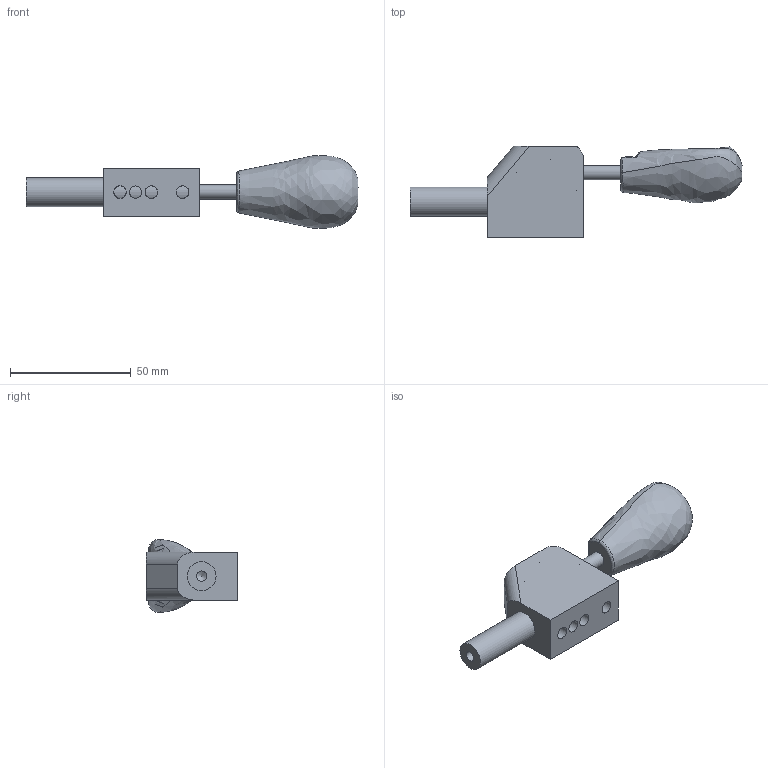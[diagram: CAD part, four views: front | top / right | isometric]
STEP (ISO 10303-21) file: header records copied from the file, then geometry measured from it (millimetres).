
FILE_DESCRIPTION(/* description */ (''),/* implementation_level */ '2;1');
FILE_NAME(/* name */ '\\192.168.1.150\pc03\Inventor\デュアルメカニズムクランプ最終\2017.10月　最新型\YSP-22ST\YSP-22ST-clamp.stp',/* time_stamp */ '2024-05-14T16:11:02+09:00',/* author */ ('Backup'),/* organization */ (''),/* preprocessor_version */ 'ST-DEVELOPER v17',/* originating_system */ 'Autodesk Inventor 2019',/* authorisation */ '');
FILE_SCHEMA (('AUTOMOTIVE_DESIGN { 1 0 10303 214 3 1 1 }'));
Length unit declared in the file: millimetre
Products named in the file (6): Assembly10; ボディ 改修後; 50-30_VER4_PG2__12; Φ8×40ｼｬﾌﾄ; カムφ25; YO－M３５S スライドバー
Assembly tree (5 placements, depth 2):
  Assembly10
    ボディ 改修後
    50-30_VER4_PG2__12
    Φ8×40ｼｬﾌﾄ
    カムφ25
    YO－M３５S スライドバー
Bounding box: 137.75 x 38 x 30.17 mm (x, y, z)
Volume: 47731.8 mm3; surface area: 19195.4 mm2
Topology: 5 solids, 5 shells, 191 faces, 532 edges, 356 vertices
Faces by surface type: plane 91, cylinder 69, bspline 24, sphere 4, cone 3
Full cylindrical faces by diameter (mm): 0.01 x12, 1.306 x1, 3.2 x2, 4.3 x1, 5.1 x1, 5.2 x3, 6 x3, 12 x2
Entity records: 16572 total; most frequent: CARTESIAN_POINT 11467, ORIENTED_EDGE 1056, DIRECTION 973, EDGE_CURVE 528, VERTEX_POINT 356, AXIS2_PLACEMENT_3D 349, LINE 275, VECTOR 275
